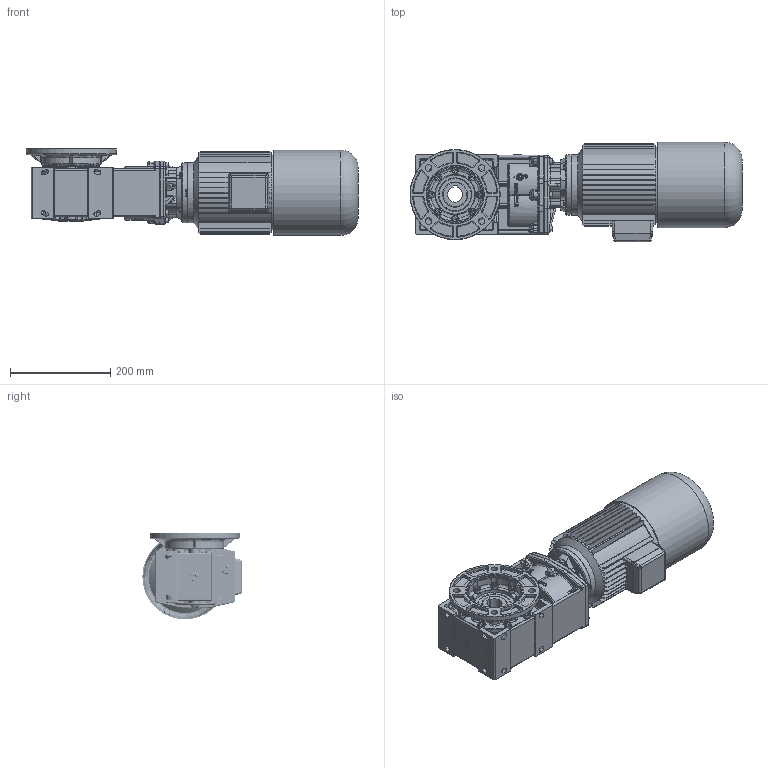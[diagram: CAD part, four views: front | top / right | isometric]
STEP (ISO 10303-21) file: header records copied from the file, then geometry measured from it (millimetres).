
FILE_DESCRIPTION((''),'2;1');
FILE_NAME('S:\Ghirri\3D\MO_RO20\Assiemi\MO20_2sFU-B14_80brake.stp','2006-02-01T16:12:15',('Stefano'),(''),'Autodesk Inventor 10','Autodesk Inventor 10','');
FILE_SCHEMA(('AUTOMOTIVE_DESIGN { 1 0 10303 214 1 1 1 1 }'));
Length unit declared in the file: millimetre
Products named in the file (18): MO20_2sFU-B14_80brake; Primario_MO20_2S; 3902001-A0; 3902003-A0; DIN 3760 AS AS - 50 x 65 x 8 - NBR; UNI 5931  M 8 x  20; 3902009-A0; 3902002-A0; Guarnizione 1_4 GAS; Tappo 1_4 GAS; UNI 5931  M 6 x  25; UNI 8839 A 6; motori B14 brake 80; FM-63-75-D=120; UNI 5739  M6 x 20; FU_MV63
Assembly tree (54 placements, depth 3):
  MO20_2sFU-B14_80brake
    Primario_MO20_2S
      3902001-A0
      3902003-A0
      DIN 3760 AS AS - 50 x 65 x 8 - NBR  x2
      UNI 5931  M 8 x  20  x8
      3902009-A0
      3902002-A0
      Guarnizione 1_4 GAS  x5
      Tappo 1_4 GAS  x5
      UNI 5931  M 6 x  25  x6
      UNI 8839 A 6  x6
    motori B14 brake 80
    FM-63-75-D=120
      FM-63-75-D=120
      UNI 5739  M6 x 20  x4
    FU_MV63
      FU_MV63
      UNI 5931  M 8 x  20  x8
Bounding box: 662 x 198 x 173 mm (x, y, z)
Volume: 7357537.3 mm3; surface area: 986372.8 mm2
Topology: 51 solids, 59 shells, 4137 faces, 10342 edges, 6341 vertices
Faces by surface type: plane 1489, cylinder 1223, bspline 1094, cone 171, torus 154, sphere 6
Full cylindrical faces by diameter (mm): 5 x1, 6 x10, 8 x16, 8.5 x8, 8.88 x4, 10 x6, 13 x26, 18 x5, 19 x6, 50 x3, 54.8 x2, 60 x1, 61 x2, 62 x2, 65 x4, 68 x2, 80 x4, 111 x1, 115 x1, 120 x2, 122.4 x1, 128 x3, 149.6 x1, 166 x1, 170 x1, 180 x1
Entity records: 233703 total; most frequent: CARTESIAN_POINT 150350, ORIENTED_EDGE 17820, DIRECTION 16604, EDGE_CURVE 8910, AXIS2_PLACEMENT_3D 6489, VERTEX_POINT 5606, EDGE_LOOP 4070, FACE_OUTER_BOUND 3650
